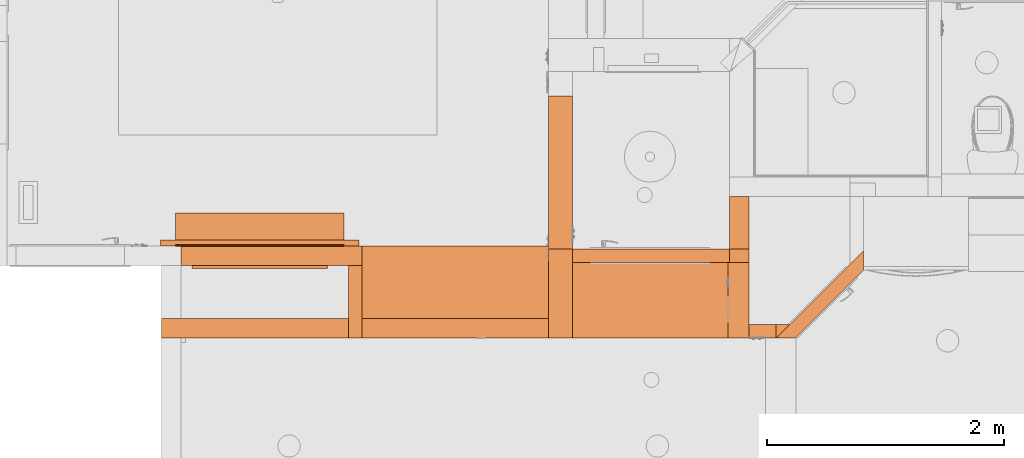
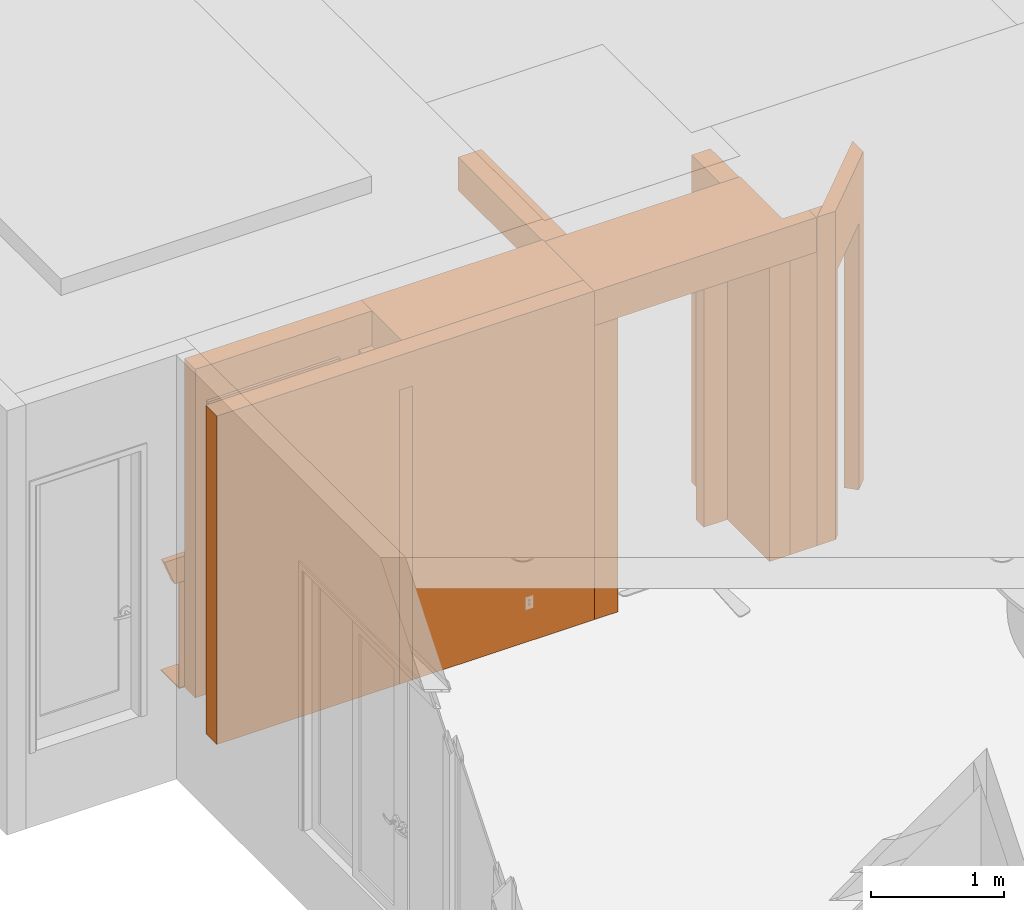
# One storey, part 85 of 103: 15 proxies.
"""IFC2X3 building model written with IfcOpenShell, lengths in inches."""

from ifc_helpers import new_model, entity, si_unit, converted_unit, derived_unit, money_unit, direction, frame, origin_with_axes, place, context, subcontext, project, spatial, faceted_brep, material, type_object, element, save


model = new_model("IFC2X3")

# Units and contexts
model_context = context("Model", 3, precision=0.00039370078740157, world=origin_with_axes(), true_north=direction((0.0, 1.0)))
plan_context = context("Plan", 3, precision=0.00039370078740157, world=origin_with_axes(), true_north=direction((0.0, 1.0)))
body_context = subcontext(model_context, "Body", "Model", "MODEL_VIEW")
ifc_project = project(units=[converted_unit("LENGTHUNIT", "INCH", entity("IfcPositiveLengthMeasure", 0.0254), si_unit("LENGTHUNIT", "METRE"), dimensions=[1, 0, 0, 0, 0, 0, 0]), converted_unit("AREAUNIT", "SQUARE_FOOT", entity("IfcPositiveLengthMeasure", 0.09290304), si_unit("AREAUNIT", "SQUARE_METRE"), dimensions=[2, 0, 0, 0, 0, 0, 0]), si_unit("PLANEANGLEUNIT", "RADIAN"), si_unit("SOLIDANGLEUNIT", "STERADIAN"), money_unit("USD"), converted_unit("TIMEUNIT", "Year", entity("IfcTimeMeasure", 31557600.0), si_unit("TIMEUNIT", "SECOND"), dimensions=[0, 0, 1, 0, 0, 0, 0]), si_unit("MASSUNIT", "GRAM", prefix="KILO"), si_unit("THERMODYNAMICTEMPERATUREUNIT", "DEGREE_CELSIUS"), si_unit("LUMINOUSINTENSITYUNIT", "LUMEN"), si_unit("ENERGYUNIT", "JOULE", prefix="MEGA"), derived_unit("SPECIFICHEATCAPACITYUNIT", [(si_unit("ENERGYUNIT", "JOULE"), 1), (si_unit("MASSUNIT", "GRAM", prefix="KILO"), -1), (si_unit("THERMODYNAMICTEMPERATUREUNIT", "KELVIN"), -1)])], contexts=[model_context, plan_context])

# Site, building, storey
site_placement = place(None, origin_with_axes())
site = spatial("IfcSite", under=ifc_project, at=site_placement, Name="Site", CompositionType="ELEMENT")
building_placement = place(site_placement, origin_with_axes())
building = spatial("IfcBuilding", under=site, at=building_placement, Name="Building", CompositionType="ELEMENT")
storey_placement = place(building_placement, frame((0.0, 0.0, 127.9999999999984), z_axis=(0.0, 0.0, 1.0), x_axis=(1.0, 0.0, 0.0)))
storey = spatial("IfcBuildingStorey", under=building, at=storey_placement, Name="Second Floor", CompositionType="ELEMENT", Elevation=128.0)

# Proxies
ifc_material = material(Name="Generic - Structural")
building_element_proxy_type_1 = type_object("IfcBuildingElementProxyType", Name="Generic - Structural 6 1/2\"", PredefinedType="NOTDEFINED")
proxy_1_placement = place(storey_placement, frame((-75.7499999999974, 354.9999999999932, 0.0), z_axis=(0.0, 0.0, 1.0), x_axis=(-1.0, 0.0, 0.0)))
element("IfcBuildingElementProxy", 1, at=proxy_1_placement, inside=storey, type_object=building_element_proxy_type_1, material=ifc_material, Name="SW - 118", context=body_context, shape_type="Brep", body=[
    faceted_brep([(0.0, 0.0, 0.0), (61.99999999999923, 0.0, 0.0), (61.99999999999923, 0.0, 105.9999999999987), (66.49999999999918, 0.0, 105.9999999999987), (66.49999999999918, 0.0, 0.0), (128.7504321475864, 0.0, 0.0), (128.7504321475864, 0.0, 118.4999999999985), (0.0, 0.0, 118.4999999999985), (0.0, 6.499999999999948, 0.0), (61.99999999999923, 6.49999999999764, 0.0), (61.99999999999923, 6.49999999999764, 105.9999999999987), (66.49999999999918, 6.49999999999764, 105.9999999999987), (66.49999999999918, 6.49999999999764, 0.0), (128.7504321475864, 6.499999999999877, 0.0), (128.7504321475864, 6.499999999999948, 118.4999999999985), (0.0, 6.499999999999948, 118.4999999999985)], [[[0, 1, 2, 3, 4, 5, 6, 7]], [[1, 0, 8, 9]], [[1, 9, 10, 2]], [[2, 10, 11, 3]], [[3, 11, 12, 4]], [[12, 13, 5, 4]], [[6, 5, 13, 14]], [[14, 15, 7, 6]], [[7, 15, 8, 0]], [[13, 12, 11, 10, 9, 8, 15, 14]]]),
])
proxy_2_placement = place(storey_placement, frame((-137.7499999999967, 378.9999999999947, -26.99999999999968), z_axis=(0.0, 0.0, 1.0), x_axis=(-1.0, 0.0, 0.0)))
element("IfcBuildingElementProxy", 2, at=proxy_2_placement, inside=storey, type_object=building_element_proxy_type_1, material=ifc_material, Name="SW - 120", context=body_context, shape_type="Brep", body=[
    faceted_brep([(60.24992620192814, -1.429327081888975e-05, 26.99999999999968), (60.24999382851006, -2.874369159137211e-08, 145.4999999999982), (0.0, -2.874369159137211e-08, 145.4999999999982), (0.0, 0.0, 132.9999999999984), (0.0, 0.0, 26.99999999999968), (12.99999999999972, 0.0, 58.24501630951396), (54.99999999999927, 0.0, 58.24501630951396), (54.99999999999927, 0.0, 27.24999999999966), (12.99999999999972, 0.0, 27.24999999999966), (11.49999999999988, 0.0, 132.9999999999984), (56.49999999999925, 0.0, 132.9999999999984), (56.49999999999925, 0.0, 80.99999999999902), (11.49999999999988, 0.0, 80.99999999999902), (60.24993965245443, 6.500000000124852, 26.99999999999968), (60.25000548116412, 6.499999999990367, 145.4999999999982), (0.0, 6.499999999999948, 145.4999999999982), (0.0, 6.499999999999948, 132.9999999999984), (0.0, 6.499999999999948, 26.99999999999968), (12.99999999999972, 5.99999999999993, 58.24501630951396), (54.99999999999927, 5.99999999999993, 58.24501630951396), (54.99999999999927, 5.99999999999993, 27.24999999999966), (12.99999999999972, 5.99999999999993, 27.24999999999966), (11.49999999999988, 6.499999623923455, 132.9999999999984), (56.49999999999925, 6.499999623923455, 132.9999999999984), (56.49999999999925, 6.499999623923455, 80.99999999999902), (11.49999999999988, 6.499999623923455, 80.99999999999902)], [[[0, 1, 2, 3, 4], [5, 6, 7, 8], [9, 10, 11, 12]], [[13, 14, 1, 0]], [[14, 15, 2, 1]], [[3, 2, 15, 16, 17, 4]], [[13, 0, 4, 17]], [[18, 19, 6, 5]], [[19, 20, 7, 6]], [[20, 21, 8, 7]], [[21, 18, 5, 8]], [[22, 23, 10, 9]], [[23, 24, 11, 10]], [[24, 25, 12, 11]], [[25, 22, 9, 12]], [[16, 15, 14, 13, 17], [22, 25, 24, 23]], [[18, 21, 20, 19]]]),
])
proxy_3_placement = place(storey_placement, frame((-15.49999999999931, 395.5009092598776, 0.0), z_axis=(0.0, 0.0, 1.0), x_axis=(0.0, -1.0, 0.0)))
element("IfcBuildingElementProxy", 3, at=proxy_3_placement, inside=storey, type_object=building_element_proxy_type_1, material=ifc_material, Name="SW - 116", context=body_context, shape_type="Brep", body=[
    faceted_brep([(0.0, 0.0, 117.9999999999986), (17.50090931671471, 0.0, 117.9999999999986), (17.50090931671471, 6.500001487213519, 117.9999999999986), (0.0, 6.499999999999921, 117.9999999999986), (22.00090925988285, 0.0, 105.9999999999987), (17.50090931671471, 0.0, 105.9999999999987), (0.0, 0.0, 114.7499999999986), (0.0, 0.0, 0.0), (22.00090925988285, 0.0, 0.0), (17.50090931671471, 6.500001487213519, 105.9999999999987), (22.00090925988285, 6.500001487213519, 105.9999999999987), (22.00090925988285, 6.499999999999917, 0.0), (0.0, 6.499999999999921, 0.0), (0.0, 6.499999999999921, 114.7499999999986)], [[[0, 1, 2, 3]], [[4, 5, 1, 0, 6, 7, 8]], [[5, 9, 2, 1]], [[2, 9, 10, 11, 12, 13, 3]], [[0, 3, 13, 12, 7, 6]], [[4, 10, 9, 5]], [[11, 8, 7, 12]], [[11, 10, 4, 8]]]),
])
building_element_proxy_type_2 = type_object("IfcBuildingElementProxyType", Name="Generic - Structural 4 1/2\"", PredefinedType="NOTDEFINED")
proxy_4_placement = place(storey_placement, frame((-137.7499999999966, 348.4999999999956, 0.0), z_axis=(0.0, 0.0, 1.0), x_axis=(0.0, 1.0, 0.0)))
element("IfcBuildingElementProxy", 4, at=proxy_4_placement, inside=storey, type_object=building_element_proxy_type_2, material=ifc_material, Name="SW - 119", context=body_context, shape_type="Brep", body=[
    faceted_brep([(0.0, 0.0, 0.0), (23.99999999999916, 0.0, 0.0), (23.99999999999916, 0.0, 105.9999999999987), (0.0, 0.0, 105.9999999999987), (0.0, 4.499999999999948, 0.0), (23.99999999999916, 4.499999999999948, 0.0), (24.00000014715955, 4.499999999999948, 105.9999999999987), (0.0, 4.499999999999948, 105.9999999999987)], [[[0, 1, 2, 3]], [[4, 5, 1, 0]], [[5, 6, 2, 1]], [[3, 2, 6, 7]], [[7, 4, 0, 3]], [[7, 6, 5, 4]]]),
])
proxy_5_placement = place(storey_placement, frame((-15.99999999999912, 348.5000003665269, 0.0), z_axis=(0.0, 0.0, 1.0), x_axis=(1.0, 0.0, 0.0)))
element("IfcBuildingElementProxy", 5, at=proxy_5_placement, inside=storey, type_object=building_element_proxy_type_2, material=ifc_material, Name="SW - 117", context=body_context, shape_type="Brep", body=[
    faceted_brep([(6.999999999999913, 4.499999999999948, 0.0), (7.000001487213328, 4.499999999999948, 105.9999999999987), (15.9712641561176, 4.499999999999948, 105.9999999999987), (15.9712641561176, 4.499999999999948, 118.4999999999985), (20.63594401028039, 4.499999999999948, 118.4999999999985), (20.63594401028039, 4.499999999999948, 0.0), (6.999999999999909, 0.0, 0.0), (7.000001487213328, -6.910629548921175e-07, 105.9999999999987), (15.9712641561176, -6.910629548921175e-07, 105.9999999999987), (15.9712641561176, -6.910629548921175e-07, 118.4999999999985), (16.13611669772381, 0.0, 118.4999999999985), (16.13611669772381, 0.0, 0.0)], [[[0, 1, 2, 3, 4, 5]], [[6, 7, 1, 0]], [[8, 2, 1, 7]], [[8, 9, 3, 2]], [[4, 3, 9, 10]], [[10, 11, 5, 4]], [[5, 11, 6, 0]], [[9, 8, 7, 6, 11, 10]]]),
])
proxy_6_placement = place(storey_placement, frame((-75.7499999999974, 373.4999999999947, 0.0), z_axis=(0.0, 0.0, 1.0), x_axis=(1.0, 0.0, 0.0)))
element("IfcBuildingElementProxy", 6, at=proxy_6_placement, inside=storey, type_object=building_element_proxy_type_2, material=ifc_material, Name="SW - 115", context=body_context, shape_type="Brep", body=[
    faceted_brep([(15.74999999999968, 4.499999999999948, 95.9999999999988), (15.74999999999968, 4.499999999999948, 0.0), (7.999999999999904, 4.499999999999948, 0.0), (7.999999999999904, 4.499999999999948, 105.9999999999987), (60.2499999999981, 4.499999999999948, 105.9999999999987), (60.2499999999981, 4.499999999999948, 0.0), (51.74999999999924, 4.499999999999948, 0.0), (51.74999999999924, 4.499999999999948, 95.9999999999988), (15.74999999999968, 0.0, 95.9999999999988), (15.74999999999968, 0.0, 0.0), (7.999999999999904, 0.0, 0.0), (7.999999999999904, 0.0, 105.9999999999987), (60.2499999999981, 0.0, 105.9999999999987), (60.2499999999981, 0.0, 0.0), (51.74999999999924, 0.0, 0.0), (51.74999999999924, 0.0, 95.9999999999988)], [[[0, 1, 2, 3, 4, 5, 6, 7]], [[1, 0, 8, 9]], [[1, 9, 10, 2]], [[11, 3, 2, 10]], [[4, 3, 11, 12]], [[12, 13, 5, 4]], [[14, 6, 5, 13]], [[7, 6, 14, 15]], [[0, 7, 15, 8]], [[15, 14, 13, 12, 11, 10, 9, 8]]]),
])
proxy_7_placement = place(storey_placement, frame((6.499954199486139, 348.4999989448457, 0.0), z_axis=(0.0, 0.0, 1.0), x_axis=(0.7070932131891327, 0.707120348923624, 0.0)))
element("IfcBuildingElementProxy", 7, at=proxy_7_placement, inside=storey, type_object=building_element_proxy_type_2, material=ifc_material, Name="SW - 100", context=body_context, shape_type="Brep", body=[
    faceted_brep([(2.502891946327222, 0.0, 0.0), (2.502891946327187, 0.0, 95.9999999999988), (26.50289194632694, 0.0, 95.9999999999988), (26.50289194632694, 0.0, 0.0), (31.82048049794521, 0.0, 0.0), (31.82048049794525, 0.0, 118.4999999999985), (0.0, 0.0, 118.4999999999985), (2.01052221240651e-06, 0.0, 0.0), (2.502891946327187, 4.499999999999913, 0.0), (2.502891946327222, 4.500000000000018, 95.9999999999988), (26.50289194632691, 4.499999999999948, 95.9999999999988), (26.50289194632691, 4.499999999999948, 0.0), (36.32065319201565, 4.499999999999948, 0.0), (36.32065319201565, 4.499999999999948, 118.4999999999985), (0.0, 4.499999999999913, 118.4999999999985), (-4.499825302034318, 4.499999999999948, 118.4999999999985), (-4.499825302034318, 4.499999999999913, 0.0)], [[[0, 1, 2, 3, 4, 5, 6, 7]], [[1, 0, 8, 9]], [[2, 1, 9, 10]], [[3, 2, 10, 11]], [[3, 11, 12, 4]], [[4, 12, 13, 5]], [[14, 6, 5, 13]], [[15, 16, 7, 6]], [[8, 0, 7, 16]], [[9, 8, 16, 15, 14, 13, 12, 11, 10]], [[14, 15, 6]]]),
])
building_element_proxy_type_3 = type_object("IfcBuildingElementProxyType", Name="Generic - Structural 1/4\"", PredefinedType="NOTDEFINED")
proxy_8_placement = place(storey_placement, frame((-199.7499999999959, 378.9999999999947, 0.0), z_axis=(0.0, 0.0, 1.0), x_axis=(1.0, 0.0, 0.0)))
element("IfcBuildingElementProxy", 8, at=proxy_8_placement, inside=storey, type_object=building_element_proxy_type_3, material=ifc_material, Name="S-21", context=body_context, shape_type="Brep", body=[
    faceted_brep([(0.0, 0.0, 0.2499999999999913), (0.0, 0.0, 0.0), (55.9999999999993, 0.0, 0.0), (55.9999999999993, 0.0, 0.2499999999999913), (0.0, 10.99999999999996, 0.2499999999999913), (0.0, 10.99999999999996, 0.0), (55.9999999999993, 10.99999999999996, 0.0), (55.9999999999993, 10.99999999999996, 0.2499999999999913)], [[[0, 1, 2, 3]], [[4, 5, 1, 0]], [[2, 1, 5, 6]], [[3, 2, 6, 7]], [[4, 0, 3, 7]], [[7, 6, 5, 4]]]),
])
building_element_proxy_type_4 = type_object("IfcBuildingElementProxyType", Name="Generic - Structural 12 1/2\"", PredefinedType="NOTDEFINED")
proxy_9_placement = place(storey_placement, frame((-137.7499999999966, 354.9999999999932, 105.9999999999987), z_axis=(0.0, 0.0, 1.0), x_axis=(1.0, 0.0, 0.0)))
element("IfcBuildingElementProxy", 9, at=proxy_9_placement, inside=storey, type_object=building_element_proxy_type_4, material=ifc_material, Name="SLA - 013", context=body_context, shape_type="Brep", body=[
    faceted_brep([(0.0, 0.0, 12.49999999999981), (0.0, 0.0, 0.0), (62.00000157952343, 0.0, 0.0), (62.00000157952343, 0.0, 12.49999999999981), (0.0, 24.00000000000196, 12.49999999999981), (0.0, 24.00000000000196, 0.0), (62.00000157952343, 24.00000000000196, 0.0), (62.00000157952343, 24.00000000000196, 12.49999999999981)], [[[0, 1, 2, 3]], [[4, 5, 1, 0]], [[2, 1, 5, 6]], [[3, 2, 6, 7]], [[4, 0, 3, 7]], [[7, 6, 5, 4]]]),
])
proxy_10_placement = place(storey_placement, frame((-75.7499984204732, 348.499999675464, 105.9999999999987), z_axis=(0.0, 0.0, 1.0), x_axis=(1.0, 0.0, 0.0)))
element("IfcBuildingElementProxy", 10, at=proxy_10_placement, inside=storey, type_object=building_element_proxy_type_4, material=ifc_material, Name="SLA - 011", context=body_context, shape_type="Brep", body=[
    faceted_brep([(0.0, 0.0, 12.49999999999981), (0.0, 0.0, 0.0), (75.7212625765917, 0.0, 0.0), (75.7212625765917, 0.0, 12.49999999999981), (0.0, 29.50000026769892, 12.49999999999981), (0.0, 29.50000026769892, 0.0), (66.74999990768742, 29.50000026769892, 0.0), (66.74999990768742, 4.500000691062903, 0.0), (75.7212625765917, 4.500000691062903, 0.0), (75.7212625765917, 4.500000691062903, 12.49999999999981), (66.74999990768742, 4.500000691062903, 12.49999999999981), (66.74999990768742, 29.50000026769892, 12.49999999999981)], [[[0, 1, 2, 3]], [[4, 5, 1, 0]], [[1, 5, 6, 7, 8, 2]], [[3, 2, 8, 9]], [[4, 0, 3, 9, 10, 11]], [[11, 6, 5, 4]], [[10, 7, 6, 11]], [[9, 8, 7, 10]]]),
])
building_element_proxy_type_5 = type_object("IfcBuildingElementProxyType", Name="Generic - Structural 8\"", PredefinedType="NOTDEFINED")
proxy_11_placement = place(storey_placement, frame((-75.7499999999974, 428.9999999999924, 0.0), z_axis=(0.0, 0.0, 1.0), x_axis=(0.0, -1.0, 0.0)))
element("IfcBuildingElementProxy", 11, at=proxy_11_placement, inside=storey, type_object=building_element_proxy_type_5, material=ifc_material, Name="SW - 128", context=body_context, shape_type="Brep", body=[
    faceted_brep([(39.99999999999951, 7.999999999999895, 0.0), (39.99999999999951, 7.999999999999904, 105.9999999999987), (0.0, 7.999999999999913, 105.9999999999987), (0.0, 7.999999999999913, 117.9999999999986), (51.00000005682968, 7.999999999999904, 117.9999999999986), (51.00000005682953, 7.999999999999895, 105.9999999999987), (80.49999999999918, 7.999999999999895, 105.9999999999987), (80.49999999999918, 7.999999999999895, 0.0), (39.99999999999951, 0.0, 0.0), (39.99999999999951, 1.579524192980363e-06, 105.9999999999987), (0.0, 1.4188946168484e-06, 105.9999999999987), (0.0, 1.579524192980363e-06, 117.9999999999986), (51.00000005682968, 1.579524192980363e-06, 117.9999999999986), (51.00000005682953, 1.579524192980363e-06, 105.9999999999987), (80.49999999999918, 1.579524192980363e-06, 105.9999999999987), (80.49999999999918, 0.0, 0.0)], [[[0, 1, 2, 3, 4, 5, 6, 7]], [[1, 0, 8, 9]], [[10, 2, 1, 9]], [[2, 10, 11, 3]], [[4, 3, 11, 12]], [[4, 12, 13, 5]], [[6, 5, 13, 14]], [[6, 14, 15, 7]], [[8, 0, 7, 15]], [[9, 8, 15, 14, 13, 12, 11, 10]]]),
])
building_element_proxy_type_6 = type_object("IfcBuildingElementProxyType", Name="Generic - Structural 2\" x 9\"", PredefinedType="NOTDEFINED")
proxy_12_placement = place(storey_placement, frame((-142.2499999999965, 378.9999999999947, 38.24999999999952), z_axis=(0.0, 0.0, 1.0), x_axis=(0.0, 1.0, 0.0)))
element("IfcBuildingElementProxy", 12, at=proxy_12_placement, inside=storey, type_object=building_element_proxy_type_6, material=ifc_material, Name="BMR - 003", context=body_context, shape_type="Brep", body=[
    faceted_brep([(0.0, 0.0, 0.0), (0.0, 58.99999999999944, 0.0), (2.0, 58.99999999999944, 0.0), (2.0, 0.0, 0.0), (0.0, -3.499999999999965, 8.999999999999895), (0.0, 62.49999999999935, 8.999999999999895), (2.0, 62.49999999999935, 8.999999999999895), (2.0, -3.499999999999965, 8.999999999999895)], [[[0, 1, 2, 3]], [[4, 5, 1, 0]], [[2, 1, 5, 6]], [[3, 2, 6, 7]], [[4, 0, 3, 7]], [[7, 6, 5, 4]]]),
])
building_element_proxy_type_7 = type_object("IfcBuildingElementProxyType", Name="Generic - Structural 7\"", PredefinedType="NOTDEFINED")
proxy_13_placement = place(storey_placement, frame((-15.99999999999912, 373.4999999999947, 0.0), z_axis=(0.0, 0.0, 1.0), x_axis=(0.0, -1.0, 0.0)))
element("IfcBuildingElementProxy", 13, at=proxy_13_placement, inside=storey, type_object=building_element_proxy_type_7, material=ifc_material, Name="SW - 116", context=body_context, shape_type="Brep", body=[
    faceted_brep([(24.99999963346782, 0.0, 105.9999999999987), (24.99999963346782, 6.99999999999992, 105.9999999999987), (0.0, 6.999999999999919, 105.9999999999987), (0.0, 0.0, 105.9999999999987), (24.99999963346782, 0.0, 0.0), (24.99999963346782, 6.999999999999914, 0.0), (0.0, 6.999999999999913, 0.0), (0.0, 0.0, 0.0)], [[[0, 1, 2, 3]], [[1, 0, 4, 5]], [[1, 5, 6, 2]], [[7, 3, 2, 6]], [[4, 0, 3, 7]], [[5, 4, 7, 6]]]),
])
building_element_proxy_type_8 = type_object("IfcBuildingElementProxyType", Name="Generic - Structural 52\"", PredefinedType="NOTDEFINED")
proxy_14_placement = place(storey_placement, frame((-194.2499999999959, 372.5000003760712, 53.99999999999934), z_axis=(0.0, 0.0, 1.0), x_axis=(1.0, 0.0, 0.0)))
element("IfcBuildingElementProxy", 14, at=proxy_14_placement, inside=storey, type_object=building_element_proxy_type_8, material=ifc_material, Name="S-10", context=body_context, shape_type="Brep", body=[
    faceted_brep([(0.0, 0.0, 51.99999999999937), (0.0, 0.0, 0.0), (0.0, -0.9999999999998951, 0.0), (0.0, -0.9999999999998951, 51.99999999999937), (44.99999999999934, 0.0, 51.99999999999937), (44.99999999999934, 0.0, 0.0), (44.99999999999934, -0.9999999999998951, 0.0), (44.99999999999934, -0.9999999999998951, 51.99999999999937)], [[[0, 1, 2, 3]], [[4, 5, 1, 0]], [[2, 1, 5, 6]], [[3, 2, 6, 7]], [[4, 0, 3, 7]], [[7, 6, 5, 4]]]),
])
building_element_proxy_type_9 = type_object("IfcBuildingElementProxyType", Name="Generic - Structural 38\"", PredefinedType="NOTDEFINED")
proxy_15_placement = place(storey_placement, frame((-143.7499999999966, 378.9999999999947, 0.2499999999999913), z_axis=(0.0, 0.0, 1.0), x_axis=(1.0, 0.0, 0.0)))
element("IfcBuildingElementProxy", 15, at=proxy_15_placement, inside=storey, type_object=building_element_proxy_type_9, material=ifc_material, Name="S-22", context=body_context, shape_type="Brep", body=[
    faceted_brep([(-6.999999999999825, 0.500000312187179, 0.0), (-6.999999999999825, 0.500000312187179, 30.99501630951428), (-48.99999999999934, 0.500000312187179, 30.99501630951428), (-48.99999999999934, 0.500000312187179, 0.0), (-55.9999999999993, 0.5000000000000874, 0.0), (-55.9999999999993, 0.5000000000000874, 37.99999999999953), (0.0, 0.5000000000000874, 37.99999999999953), (0.0, 0.5000000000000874, 0.0), (-6.999999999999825, 0.0, 0.0), (-6.999999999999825, 0.0, 30.99501630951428), (-48.99999999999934, 0.0, 30.99501630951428), (-48.99999999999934, 0.0, 0.0), (-55.9999999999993, 0.0, 0.0), (-55.9999999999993, 0.0, 37.99999999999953), (0.0, 0.0, 37.99999999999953), (0.0, 0.0, 0.0)], [[[0, 1, 2, 3, 4, 5, 6, 7]], [[8, 9, 1, 0]], [[9, 10, 2, 1]], [[10, 11, 3, 2]], [[12, 4, 3, 11]], [[12, 13, 5, 4]], [[6, 5, 13, 14]], [[7, 6, 14, 15]], [[7, 15, 8, 0]], [[11, 10, 9, 8, 15, 14, 13, 12]]]),
])

save(model, "model.ifc")
